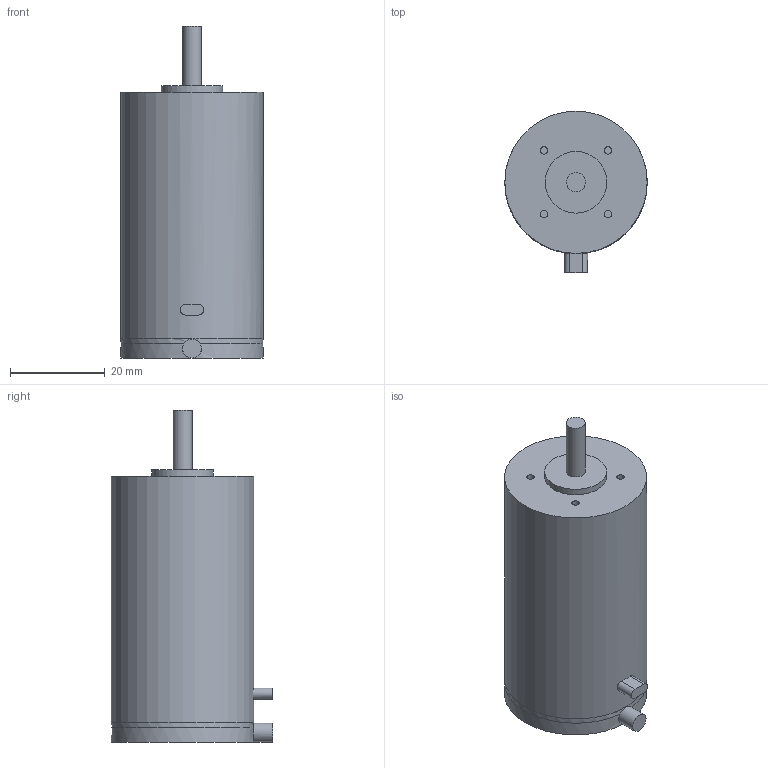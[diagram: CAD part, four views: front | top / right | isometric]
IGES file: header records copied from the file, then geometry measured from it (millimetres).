
Global section: file name: No Iges File Name specified; native system: Autodesk Inventor 2012; preprocessor: AutoDesk Inventor Iges Exporter R2012; author: mangiullo; date: 20130920.084511; units: millimetre
Bounding box: 30 x 34 x 70 mm (x, y, z)
Volume: 39981.5 mm3; surface area: 7107.4 mm2
Topology: 1 solids, 1 shells, 24 faces, 47 edges, 31 vertices
Faces by surface type: plane 12, cylinder 8, revolution 4
Full cylindrical faces by diameter (mm): 4 x2, 13 x1, 30 x3
